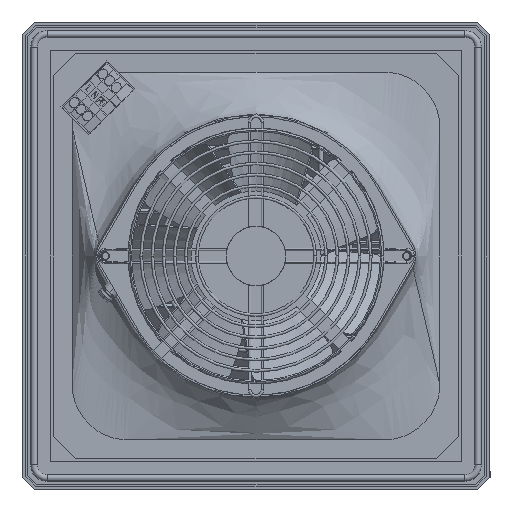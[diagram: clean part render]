
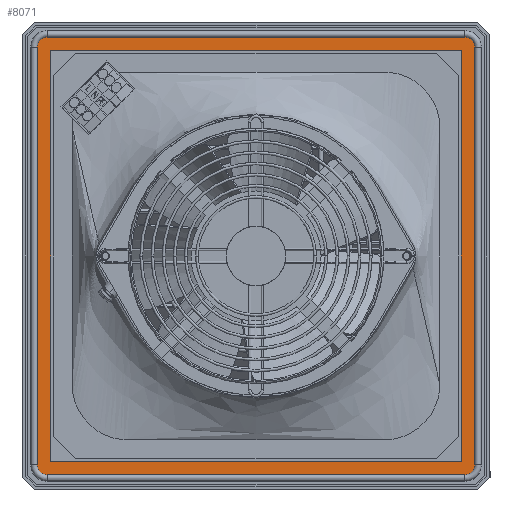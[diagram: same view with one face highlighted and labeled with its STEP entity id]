
A CAD part, front view. The second image highlights one B-rep face of the part: STEP entity #8071.
In plain terms, the highlighted planar face has unit normal (0, -1, 0).
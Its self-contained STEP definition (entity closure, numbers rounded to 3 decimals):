
#750 = EDGE_CURVE ( 'NONE', #71701, #842, #45420, .T. ) ;
#752 = ORIENTED_EDGE ( 'NONE', *, *, #750, .F. ) ;
#832 = VERTEX_POINT ( 'NONE', #45539 ) ;
#842 = VERTEX_POINT ( 'NONE', #45538 ) ;
#2606 = VERTEX_POINT ( 'NONE', #46025 ) ;
#2868 = ORIENTED_EDGE ( 'NONE', *, *, #2871, .T. ) ;
#2871 = EDGE_CURVE ( 'NONE', #2606, #5833, #46000, .T. ) ;
#3067 = VERTEX_POINT ( 'NONE', #46067 ) ;
#3077 = ORIENTED_EDGE ( 'NONE', *, *, #3151, .T. ) ;
#3078 = ORIENTED_EDGE ( 'NONE', *, *, #3153, .T. ) ;
#3151 = EDGE_CURVE ( 'NONE', #3067, #3152, #46147, .T. ) ;
#3152 = VERTEX_POINT ( 'NONE', #46140 ) ;
#3153 = EDGE_CURVE ( 'NONE', #3152, #2606, #46135, .T. ) ;
#3300 = VERTEX_POINT ( 'NONE', #80716 ) ;
#3787 = ORIENTED_EDGE ( 'NONE', *, *, #3888, .T. ) ;
#3888 = EDGE_CURVE ( 'NONE', #3300, #3067, #46634, .T. ) ;
#4165 = ORIENTED_EDGE ( 'NONE', *, *, #5735, .T. ) ;
#4253 = VERTEX_POINT ( 'NONE', #46549 ) ;
#4261 = EDGE_LOOP ( 'NONE', ( #4165, #4708, #4563, #4476 ) ) ;
#4411 = VERTEX_POINT ( 'NONE', #46517 ) ;
#4476 = ORIENTED_EDGE ( 'NONE', *, *, #4552, .T. ) ;
#4514 = EDGE_CURVE ( 'NONE', #4253, #4411, #46492, .T. ) ;
#4516 = EDGE_CURVE ( 'NONE', #71701, #3300, #46479, .T. ) ;
#4533 = ORIENTED_EDGE ( 'NONE', *, *, #4516, .T. ) ;
#4552 = EDGE_CURVE ( 'NONE', #4411, #4672, #46463, .T. ) ;
#4563 = ORIENTED_EDGE ( 'NONE', *, *, #4514, .T. ) ;
#4672 = VERTEX_POINT ( 'NONE', #46452 ) ;
#4686 = VERTEX_POINT ( 'NONE', #46451 ) ;
#4708 = ORIENTED_EDGE ( 'NONE', *, *, #4728, .T. ) ;
#4728 = EDGE_CURVE ( 'NONE', #4686, #4253, #46450, .T. ) ;
#5735 = EDGE_CURVE ( 'NONE', #4672, #4686, #80800, .T. ) ;
#5808 = EDGE_CURVE ( 'NONE', #5833, #832, #80843, .T. ) ;
#5833 = VERTEX_POINT ( 'NONE', #80826 ) ;
#5961 = ORIENTED_EDGE ( 'NONE', *, *, #5808, .T. ) ;
#7980 = EDGE_LOOP ( 'NONE', ( #8130, #752, #4533, #3787, #3077, #3078, #2868, #5961 ) ) ;
#8050 = EDGE_CURVE ( 'NONE', #832, #842, #81086, .T. ) ;
#8071 = ADVANCED_FACE ( 'NONE', ( #81087, #81080 ), #81079, .T. ) ;
#8130 = ORIENTED_EDGE ( 'NONE', *, *, #8050, .T. ) ;
#37830 = CARTESIAN_POINT ( 'NONE',  ( 117.75, 30.5, 112.5 ) ) ;
#45416 = DIRECTION ( 'NONE',  ( 0., 0., -1. ) ) ;
#45417 = VECTOR ( 'NONE', #45416, 1000. ) ;
#45418 = CARTESIAN_POINT ( 'NONE',  ( 117.75, 30.5, 112.5 ) ) ;
#45420 = LINE ( 'NONE', #45418, #45417 ) ;
#45538 = CARTESIAN_POINT ( 'NONE',  ( 117.75, 30.5, -112.5 ) ) ;
#45539 = CARTESIAN_POINT ( 'NONE',  ( 112.5, 30.5, -117.75 ) ) ;
#45994 = DIRECTION ( 'NONE',  ( 0., 0., -1. ) ) ;
#45997 = DIRECTION ( 'NONE',  ( 0., -1., 0. ) ) ;
#45998 = CARTESIAN_POINT ( 'NONE',  ( -112.5, 30.5, -112.5 ) ) ;
#45999 = AXIS2_PLACEMENT_3D ( 'NONE', #45998, #45997, #45994 ) ;
#46000 = CIRCLE ( 'NONE', #45999, 5.25 ) ;
#46025 = CARTESIAN_POINT ( 'NONE',  ( -117.75, 30.5, -112.5 ) ) ;
#46067 = CARTESIAN_POINT ( 'NONE',  ( -112.5, 30.5, 117.75 ) ) ;
#46130 = DIRECTION ( 'NONE',  ( 0., 0., -1. ) ) ;
#46132 = VECTOR ( 'NONE', #46130, 1000. ) ;
#46133 = CARTESIAN_POINT ( 'NONE',  ( -117.75, 30.5, 112.5 ) ) ;
#46135 = LINE ( 'NONE', #46133, #46132 ) ;
#46140 = CARTESIAN_POINT ( 'NONE',  ( -117.75, 30.5, 112.5 ) ) ;
#46142 = DIRECTION ( 'NONE',  ( 0., 0., -1. ) ) ;
#46144 = DIRECTION ( 'NONE',  ( 0., -1., 0. ) ) ;
#46145 = CARTESIAN_POINT ( 'NONE',  ( -112.5, 30.5, 112.5 ) ) ;
#46146 = AXIS2_PLACEMENT_3D ( 'NONE', #46145, #46144, #46142 ) ;
#46147 = CIRCLE ( 'NONE', #46146, 5.25 ) ;
#46445 = DIRECTION ( 'NONE',  ( 0., 0., 1. ) ) ;
#46447 = VECTOR ( 'NONE', #46445, 1000. ) ;
#46449 = CARTESIAN_POINT ( 'NONE',  ( -110.5, 30.5, 110.5 ) ) ;
#46450 = LINE ( 'NONE', #46449, #46447 ) ;
#46451 = CARTESIAN_POINT ( 'NONE',  ( -110.5, 30.5, -110.5 ) ) ;
#46452 = CARTESIAN_POINT ( 'NONE',  ( 110.5, 30.5, -110.5 ) ) ;
#46456 = DIRECTION ( 'NONE',  ( 0., 0., -1. ) ) ;
#46458 = VECTOR ( 'NONE', #46456, 1000. ) ;
#46460 = CARTESIAN_POINT ( 'NONE',  ( 110.5, 30.5, 110.5 ) ) ;
#46463 = LINE ( 'NONE', #46460, #46458 ) ;
#46472 = DIRECTION ( 'NONE',  ( 0., 0., -1. ) ) ;
#46473 = DIRECTION ( 'NONE',  ( 0., -1., 0. ) ) ;
#46475 = CARTESIAN_POINT ( 'NONE',  ( 112.5, 30.5, 112.5 ) ) ;
#46477 = AXIS2_PLACEMENT_3D ( 'NONE', #46475, #46473, #46472 ) ;
#46479 = CIRCLE ( 'NONE', #46477, 5.25 ) ;
#46485 = DIRECTION ( 'NONE',  ( 1., 0., 0. ) ) ;
#46487 = VECTOR ( 'NONE', #46485, 1000. ) ;
#46489 = CARTESIAN_POINT ( 'NONE',  ( -110.5, 30.5, 110.5 ) ) ;
#46492 = LINE ( 'NONE', #46489, #46487 ) ;
#46517 = CARTESIAN_POINT ( 'NONE',  ( 110.5, 30.5, 110.5 ) ) ;
#46549 = CARTESIAN_POINT ( 'NONE',  ( -110.5, 30.5, 110.5 ) ) ;
#46627 = DIRECTION ( 'NONE',  ( -1., 0., 0. ) ) ;
#46629 = VECTOR ( 'NONE', #46627, 1000. ) ;
#46631 = CARTESIAN_POINT ( 'NONE',  ( 112.5, 30.5, 117.75 ) ) ;
#46634 = LINE ( 'NONE', #46631, #46629 ) ;
#71701 = VERTEX_POINT ( 'NONE', #37830 ) ;
#80716 = CARTESIAN_POINT ( 'NONE',  ( 112.5, 30.5, 117.75 ) ) ;
#80790 = DIRECTION ( 'NONE',  ( -1., 0., 0. ) ) ;
#80791 = VECTOR ( 'NONE', #80790, 1000. ) ;
#80799 = CARTESIAN_POINT ( 'NONE',  ( -110.5, 30.5, -110.5 ) ) ;
#80800 = LINE ( 'NONE', #80799, #80791 ) ;
#80826 = CARTESIAN_POINT ( 'NONE',  ( -112.5, 30.5, -117.75 ) ) ;
#80840 = DIRECTION ( 'NONE',  ( 1., 0., 0. ) ) ;
#80841 = VECTOR ( 'NONE', #80840, 1000. ) ;
#80842 = CARTESIAN_POINT ( 'NONE',  ( -112.5, 30.5, -117.75 ) ) ;
#80843 = LINE ( 'NONE', #80842, #80841 ) ;
#81074 = DIRECTION ( 'NONE',  ( 0., 0., -1. ) ) ;
#81075 = DIRECTION ( 'NONE',  ( 0., -1., 0. ) ) ;
#81076 = CARTESIAN_POINT ( 'NONE',  ( -123., 30.5, -123. ) ) ;
#81078 = AXIS2_PLACEMENT_3D ( 'NONE', #81076, #81075, #81074 ) ;
#81079 = PLANE ( 'NONE',  #81078 ) ;
#81080 = FACE_BOUND ( 'NONE', #4261, .T. ) ;
#81081 = DIRECTION ( 'NONE',  ( 0., 0., -1. ) ) ;
#81083 = DIRECTION ( 'NONE',  ( 0., -1., 0. ) ) ;
#81084 = CARTESIAN_POINT ( 'NONE',  ( 112.5, 30.5, -112.5 ) ) ;
#81085 = AXIS2_PLACEMENT_3D ( 'NONE', #81084, #81083, #81081 ) ;
#81086 = CIRCLE ( 'NONE', #81085, 5.25 ) ;
#81087 = FACE_OUTER_BOUND ( 'NONE', #7980, .T. ) ;
